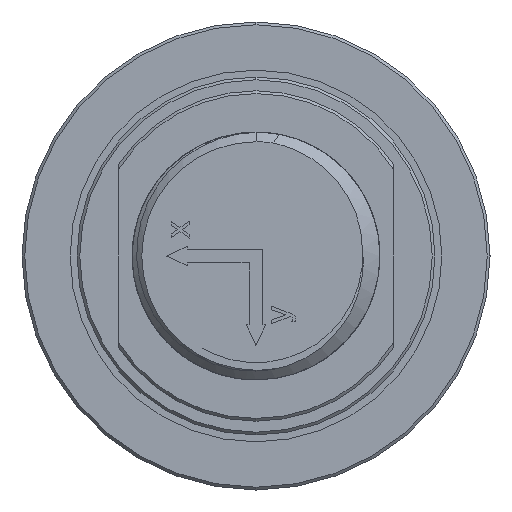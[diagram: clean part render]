
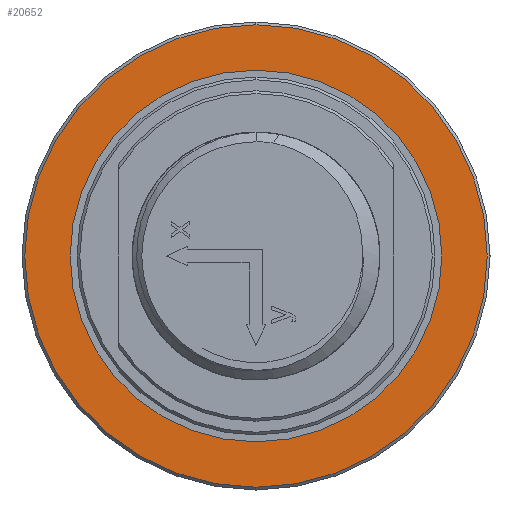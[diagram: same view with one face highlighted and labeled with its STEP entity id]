
A CAD part, left-side view. The second image highlights one B-rep face of the part: STEP entity #20652.
In plain terms, the highlighted planar face has unit normal (-1, 0, 0).
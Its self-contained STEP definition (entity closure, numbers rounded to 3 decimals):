
#661 = DIRECTION ( 'NONE',  ( -1., 0., 0. ) ) ;
#919 = CARTESIAN_POINT ( 'NONE',  ( -39., 0., 0. ) ) ;
#1556 = AXIS2_PLACEMENT_3D ( 'NONE', #5291, #19905, #13247 ) ;
#1741 = DIRECTION ( 'NONE',  ( 1., 0., 0. ) ) ;
#1797 = CARTESIAN_POINT ( 'NONE',  ( -39., 0., -16.8 ) ) ;
#2408 = EDGE_LOOP ( 'NONE', ( #19083, #5399 ) ) ;
#2939 = PLANE ( 'NONE',  #14224 ) ;
#3051 = ORIENTED_EDGE ( 'NONE', *, *, #4151, .F. ) ;
#3398 = CIRCLE ( 'NONE', #18161, 13.5 ) ;
#3684 = DIRECTION ( 'NONE',  ( 0., 0., 1. ) ) ;
#3754 = EDGE_CURVE ( 'NONE', #17380, #9635, #3398, .T. ) ;
#3990 = VERTEX_POINT ( 'NONE', #17132 ) ;
#4151 = EDGE_CURVE ( 'NONE', #9635, #17380, #17454, .T. ) ;
#5291 = CARTESIAN_POINT ( 'NONE',  ( -39., 0., 0. ) ) ;
#5399 = ORIENTED_EDGE ( 'NONE', *, *, #10436, .T. ) ;
#5950 = DIRECTION ( 'NONE',  ( 0., 0., 1. ) ) ;
#6270 = DIRECTION ( 'NONE',  ( 0., 0., -1. ) ) ;
#8726 = CARTESIAN_POINT ( 'NONE',  ( -39., 0., 0. ) ) ;
#8906 = ORIENTED_EDGE ( 'NONE', *, *, #3754, .F. ) ;
#9156 = CARTESIAN_POINT ( 'NONE',  ( -39., 0., 13.5 ) ) ;
#9635 = VERTEX_POINT ( 'NONE', #9156 ) ;
#10402 = AXIS2_PLACEMENT_3D ( 'NONE', #919, #14155, #20491 ) ;
#10436 = EDGE_CURVE ( 'NONE', #3990, #16706, #11851, .T. ) ;
#11092 = DIRECTION ( 'NONE',  ( -1., 0., 0. ) ) ;
#11851 = CIRCLE ( 'NONE', #1556, 16.8 ) ;
#12955 = CARTESIAN_POINT ( 'NONE',  ( -39., 0., -13.5 ) ) ;
#13247 = DIRECTION ( 'NONE',  ( 0., 0., -1. ) ) ;
#14155 = DIRECTION ( 'NONE',  ( -1., 0., 0. ) ) ;
#14224 = AXIS2_PLACEMENT_3D ( 'NONE', #21099, #1741, #6270 ) ;
#14356 = AXIS2_PLACEMENT_3D ( 'NONE', #20673, #11092, #5950 ) ;
#15345 = EDGE_LOOP ( 'NONE', ( #3051, #8906 ) ) ;
#16706 = VERTEX_POINT ( 'NONE', #1797 ) ;
#17132 = CARTESIAN_POINT ( 'NONE',  ( -39., 0., 16.8 ) ) ;
#17380 = VERTEX_POINT ( 'NONE', #12955 ) ;
#17454 = CIRCLE ( 'NONE', #14356, 13.5 ) ;
#18161 = AXIS2_PLACEMENT_3D ( 'NONE', #8726, #661, #3684 ) ;
#19083 = ORIENTED_EDGE ( 'NONE', *, *, #19573, .T. ) ;
#19486 = FACE_BOUND ( 'NONE', #15345, .T. ) ;
#19573 = EDGE_CURVE ( 'NONE', #16706, #3990, #19677, .T. ) ;
#19587 = FACE_OUTER_BOUND ( 'NONE', #2408, .T. ) ;
#19677 = CIRCLE ( 'NONE', #10402, 16.8 ) ;
#19905 = DIRECTION ( 'NONE',  ( -1., 0., 0. ) ) ;
#20491 = DIRECTION ( 'NONE',  ( 0., 0., -1. ) ) ;
#20652 = ADVANCED_FACE ( 'NONE', ( #19587, #19486 ), #2939, .F. ) ;
#20673 = CARTESIAN_POINT ( 'NONE',  ( -39., 0., 0. ) ) ;
#21099 = CARTESIAN_POINT ( 'NONE',  ( -39., 17., 0. ) ) ;
